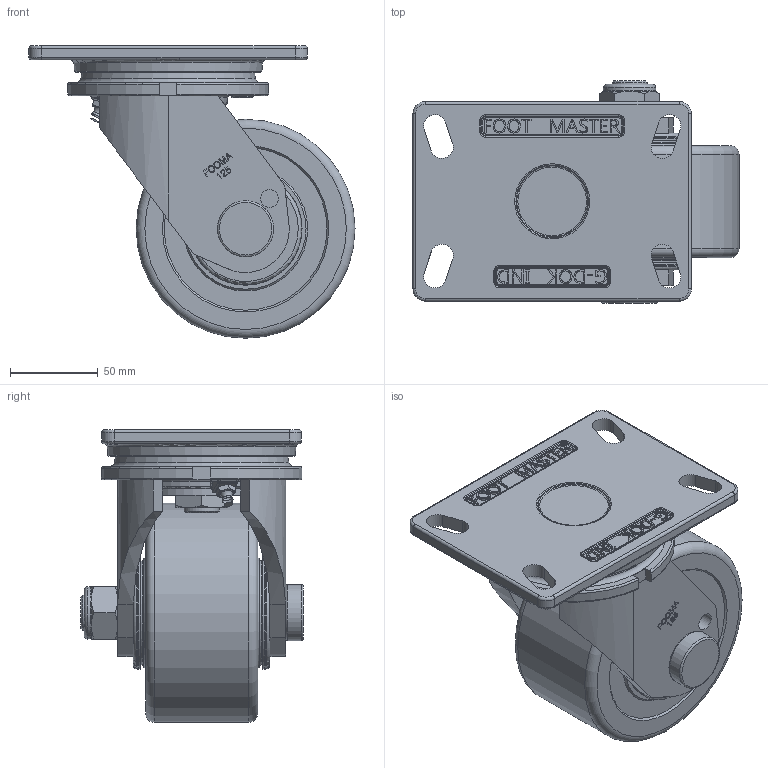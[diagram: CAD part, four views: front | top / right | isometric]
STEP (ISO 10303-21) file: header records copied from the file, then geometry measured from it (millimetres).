
FILE_DESCRIPTION(/* description */ (''),/* implementation_level */ '2;1');
FILE_NAME(/* name */ '\\192.168.10.38\지덕공유\1.기술연구소\손동원\GF-SERIES\3D\GF-125-ASF-MCD.stp',/* time_stamp */ '2023-07-25T14:00:30+09:00',/* author */ ('admin'),/* organization */ (''),/* preprocessor_version */ 'ST-DEVELOPER v18.1',/* originating_system */ 'Autodesk Inventor 2021',/* authorisation */ '');
FILE_SCHEMA (('AUTOMOTIVE_DESIGN { 1 0 10303 214 3 1 1 }'));
Length unit declared in the file: millimetre
Products named in the file (1): GF-125-ASF-MCD
Bounding box: 186.2 x 127 x 167 mm (x, y, z)
Volume: 1312633.4 mm3; surface area: 147909.9 mm2
Topology: 1 solids, 1 shells, 1277 faces, 3454 edges, 2206 vertices
Faces by surface type: plane 489, bspline 437, cylinder 194, torus 90, cone 59, sphere 8
Full cylindrical faces by diameter (mm): 6 x1, 10 x2, 20 x4, 20.2 x2, 24.9 x2, 30 x1, 32 x1, 32.334 x2, 39.666 x2, 59 x1, 64.519 x2, 125 x1
Entity records: 44356 total; most frequent: CARTESIAN_POINT 14707, ORIENTED_EDGE 6872, DIRECTION 5063, EDGE_CURVE 3436, VERTEX_POINT 2206, AXIS2_PLACEMENT_3D 1716, LINE 1631, VECTOR 1631
